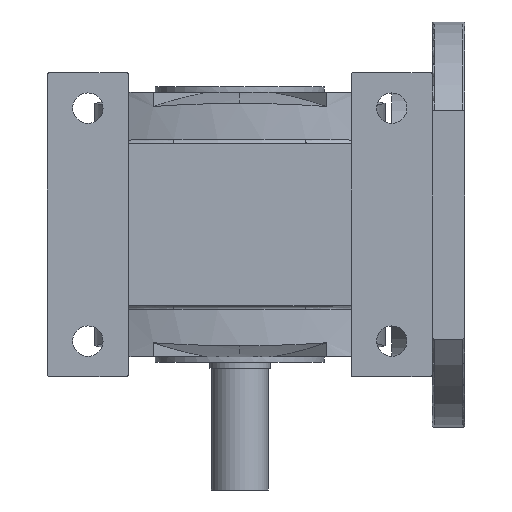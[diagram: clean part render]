
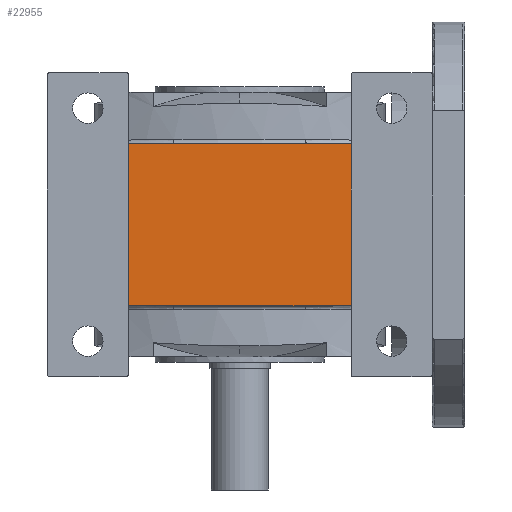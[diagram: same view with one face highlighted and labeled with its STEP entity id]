
A CAD part, front view. The second image highlights one B-rep face of the part: STEP entity #22955.
In plain terms, the highlighted planar face has unit normal (0, -1, 0).
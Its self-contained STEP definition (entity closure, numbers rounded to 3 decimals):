
#610 = PLANE ( 'NONE',  #36406 ) ;
#2017 = FACE_OUTER_BOUND ( 'NONE', #20787, .T. ) ;
#3944 = EDGE_CURVE ( 'NONE', #40481, #32995, #38997, .T. ) ;
#3991 = VERTEX_POINT ( 'NONE', #6008 ) ;
#4511 = VECTOR ( 'NONE', #17229, 1000. ) ;
#5857 = DIRECTION ( 'NONE',  ( 1., 0., 0. ) ) ;
#6008 = CARTESIAN_POINT ( 'NONE',  ( 55., -130., 40. ) ) ;
#8526 = VECTOR ( 'NONE', #16075, 1000. ) ;
#10057 = VECTOR ( 'NONE', #5857, 1000. ) ;
#12051 = EDGE_CURVE ( 'NONE', #32995, #3991, #21212, .T. ) ;
#14849 = ORIENTED_EDGE ( 'NONE', *, *, #43367, .F. ) ;
#15851 = CARTESIAN_POINT ( 'NONE',  ( -75., -130., -40. ) ) ;
#15906 = CARTESIAN_POINT ( 'NONE',  ( 55., -130., -40. ) ) ;
#16075 = DIRECTION ( 'NONE',  ( 0., 0., -1. ) ) ;
#16759 = LINE ( 'NONE', #36382, #39754 ) ;
#17059 = ORIENTED_EDGE ( 'NONE', *, *, #3944, .T. ) ;
#17229 = DIRECTION ( 'NONE',  ( 0., 0., 1. ) ) ;
#17537 = DIRECTION ( 'NONE',  ( 0., -1., 0. ) ) ;
#20787 = EDGE_LOOP ( 'NONE', ( #17059, #22098, #14849, #42353 ) ) ;
#20830 = CARTESIAN_POINT ( 'NONE',  ( 55., -130., -40. ) ) ;
#21212 = LINE ( 'NONE', #20830, #4511 ) ;
#21267 = DIRECTION ( 'NONE',  ( 0., 0., -1. ) ) ;
#22098 = ORIENTED_EDGE ( 'NONE', *, *, #12051, .T. ) ;
#22486 = VERTEX_POINT ( 'NONE', #35073 ) ;
#22955 = ADVANCED_FACE ( 'NONE', ( #2017 ), #610, .T. ) ;
#26078 = DIRECTION ( 'NONE',  ( 1., 0., 0. ) ) ;
#32995 = VERTEX_POINT ( 'NONE', #15906 ) ;
#33138 = CARTESIAN_POINT ( 'NONE',  ( -55., -130., -40. ) ) ;
#35073 = CARTESIAN_POINT ( 'NONE',  ( -55., -130., 40. ) ) ;
#35907 = LINE ( 'NONE', #33138, #8526 ) ;
#36382 = CARTESIAN_POINT ( 'NONE',  ( -75., -130., 40. ) ) ;
#36406 = AXIS2_PLACEMENT_3D ( 'NONE', #38022, #17537, #21267 ) ;
#38022 = CARTESIAN_POINT ( 'NONE',  ( -75., -130., -40. ) ) ;
#38073 = EDGE_CURVE ( 'NONE', #22486, #40481, #35907, .T. ) ;
#38997 = LINE ( 'NONE', #15851, #10057 ) ;
#39754 = VECTOR ( 'NONE', #26078, 1000. ) ;
#40481 = VERTEX_POINT ( 'NONE', #43728 ) ;
#42353 = ORIENTED_EDGE ( 'NONE', *, *, #38073, .T. ) ;
#43367 = EDGE_CURVE ( 'NONE', #22486, #3991, #16759, .T. ) ;
#43728 = CARTESIAN_POINT ( 'NONE',  ( -55., -130., -40. ) ) ;
